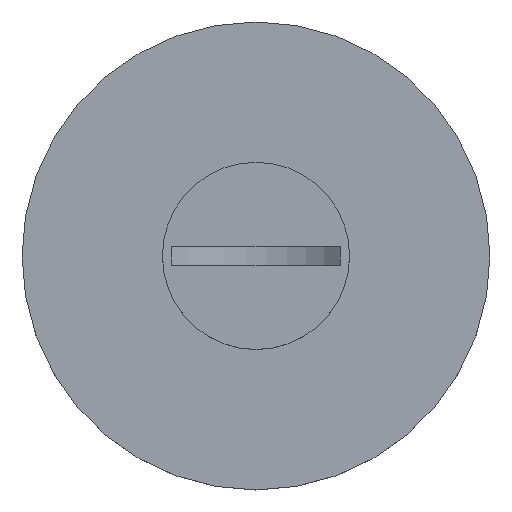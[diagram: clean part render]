
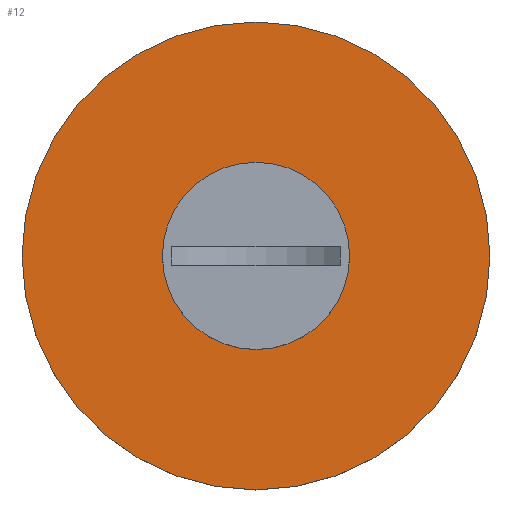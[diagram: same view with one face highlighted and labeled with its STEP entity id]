
A CAD part, top view. The second image highlights one B-rep face of the part: STEP entity #12.
In plain terms, the highlighted planar face has unit normal (0, 0, 1).
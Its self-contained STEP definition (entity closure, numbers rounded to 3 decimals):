
#8 = EDGE_CURVE ( 'NONE', #172, #53, #321, .T. ) ;
#10 = PLANE ( 'NONE',  #282 ) ;
#12 = ADVANCED_FACE ( 'NONE', ( #102, #51 ), #10, .T. ) ;
#13 = DIRECTION ( 'NONE',  ( 1., 0., 0. ) ) ;
#16 = ORIENTED_EDGE ( 'NONE', *, *, #26, .F. ) ;
#26 = EDGE_CURVE ( 'NONE', #35, #80, #181, .T. ) ;
#33 = AXIS2_PLACEMENT_3D ( 'NONE', #195, #42, #220 ) ;
#35 = VERTEX_POINT ( 'NONE', #136 ) ;
#42 = DIRECTION ( 'NONE',  ( 0., 0., 1. ) ) ;
#46 = CIRCLE ( 'NONE', #33, 10. ) ;
#51 = FACE_BOUND ( 'NONE', #160, .T. ) ;
#53 = VERTEX_POINT ( 'NONE', #291 ) ;
#58 = CARTESIAN_POINT ( 'NONE',  ( 0., 0., 0. ) ) ;
#80 = VERTEX_POINT ( 'NONE', #219 ) ;
#83 = CARTESIAN_POINT ( 'NONE',  ( 0., 0., 0. ) ) ;
#84 = DIRECTION ( 'NONE',  ( 1., 0., 0. ) ) ;
#102 = FACE_OUTER_BOUND ( 'NONE', #312, .T. ) ;
#104 = DIRECTION ( 'NONE',  ( 0., 0., 1. ) ) ;
#106 = EDGE_CURVE ( 'NONE', #80, #35, #46, .T. ) ;
#113 = DIRECTION ( 'NONE',  ( 1., 0., 0. ) ) ;
#136 = CARTESIAN_POINT ( 'NONE',  ( -10., 0., 0. ) ) ;
#160 = EDGE_LOOP ( 'NONE', ( #16, #317 ) ) ;
#162 = DIRECTION ( 'NONE',  ( 0., 0., 1. ) ) ;
#172 = VERTEX_POINT ( 'NONE', #197 ) ;
#181 = CIRCLE ( 'NONE', #258, 10. ) ;
#188 = AXIS2_PLACEMENT_3D ( 'NONE', #58, #232, #84 ) ;
#195 = CARTESIAN_POINT ( 'NONE',  ( 0., 0., 0. ) ) ;
#197 = CARTESIAN_POINT ( 'NONE',  ( -25., 0., 0. ) ) ;
#219 = CARTESIAN_POINT ( 'NONE',  ( 10., 0., 0. ) ) ;
#220 = DIRECTION ( 'NONE',  ( 1., 0., 0. ) ) ;
#226 = AXIS2_PLACEMENT_3D ( 'NONE', #261, #104, #320 ) ;
#231 = CIRCLE ( 'NONE', #188, 25. ) ;
#232 = DIRECTION ( 'NONE',  ( 0., 0., 1. ) ) ;
#234 = DIRECTION ( 'NONE',  ( 0., 0., 1. ) ) ;
#258 = AXIS2_PLACEMENT_3D ( 'NONE', #264, #234, #113 ) ;
#261 = CARTESIAN_POINT ( 'NONE',  ( 0., 0., 0. ) ) ;
#264 = CARTESIAN_POINT ( 'NONE',  ( 0., 0., 0. ) ) ;
#282 = AXIS2_PLACEMENT_3D ( 'NONE', #83, #162, #13 ) ;
#291 = CARTESIAN_POINT ( 'NONE',  ( 25., 0., 0. ) ) ;
#307 = EDGE_CURVE ( 'NONE', #53, #172, #231, .T. ) ;
#309 = ORIENTED_EDGE ( 'NONE', *, *, #307, .T. ) ;
#312 = EDGE_LOOP ( 'NONE', ( #309, #325 ) ) ;
#317 = ORIENTED_EDGE ( 'NONE', *, *, #106, .F. ) ;
#320 = DIRECTION ( 'NONE',  ( 1., 0., 0. ) ) ;
#321 = CIRCLE ( 'NONE', #226, 25. ) ;
#325 = ORIENTED_EDGE ( 'NONE', *, *, #8, .T. ) ;
